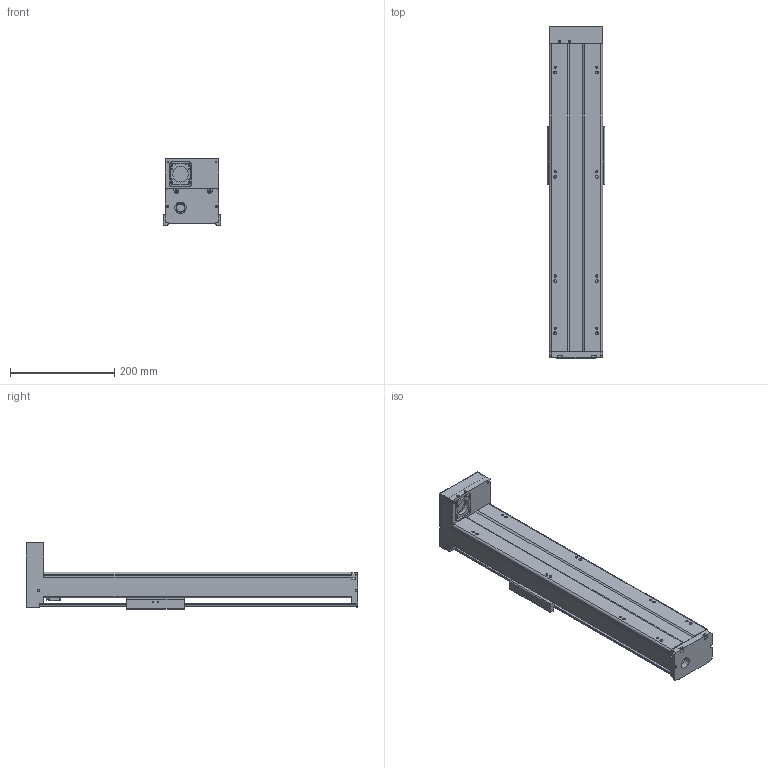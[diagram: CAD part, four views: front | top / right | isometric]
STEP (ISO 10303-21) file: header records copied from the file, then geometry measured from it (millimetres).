
FILE_DESCRIPTION(/* description */ (''),/* implementation_level */ '2;1');
FILE_NAME(/* name */ 'TKA100-FD-400_asm1.stp',/* time_stamp */ '2016-05-16T15:18:54+08:00',/* author */ (''),/* organization */ (''),/* preprocessor_version */ 'ST-DEVELOPER v15',/* originating_system */ 'SIEMENS PLM Software NX 8.5',/* authorisation */ '');
FILE_SCHEMA (('AUTOMOTIVE_DESIGN { 1 0 10303 214 3 1 1 1 }'));
Length unit declared in the file: millimetre
Products named in the file (3): 200-02; 200-01; TKA100-FD-400_asm1
Assembly tree (2 placements, depth 2):
  TKA100-FD-400_asm1
    200-01
    200-02
Bounding box: 110 x 636 x 127 mm (x, y, z)
Volume: 1501013 mm3; surface area: 523493.7 mm2
Topology: 2 solids, 9 shells, 771 faces, 1998 edges, 1295 vertices
Faces by surface type: cylinder 297, plane 292, cone 118, torus 38, bspline 26
Full cylindrical faces by diameter (mm): 2.5 x6, 2.6 x8, 3.3 x10, 3.4 x8, 3.8 x8, 4.2 x17, 4.3 x4, 4.5 x8, 5 x1, 5.5 x18, 6.6 x4, 8 x5, 9 x4, 10 x10, 11 x4, 12 x7, 15.3 x1, 16 x1, 22 x1, 24 x1, 28 x4, 30 x1, 33 x1
Entity records: 27892 total; most frequent: CARTESIAN_POINT 9962, DIRECTION 3738, ORIENTED_EDGE 3424, EDGE_CURVE 1712, AXIS2_PLACEMENT_3D 1488, VERTEX_POINT 1217, EDGE_LOOP 1092, ADVANCED_FACE 771
